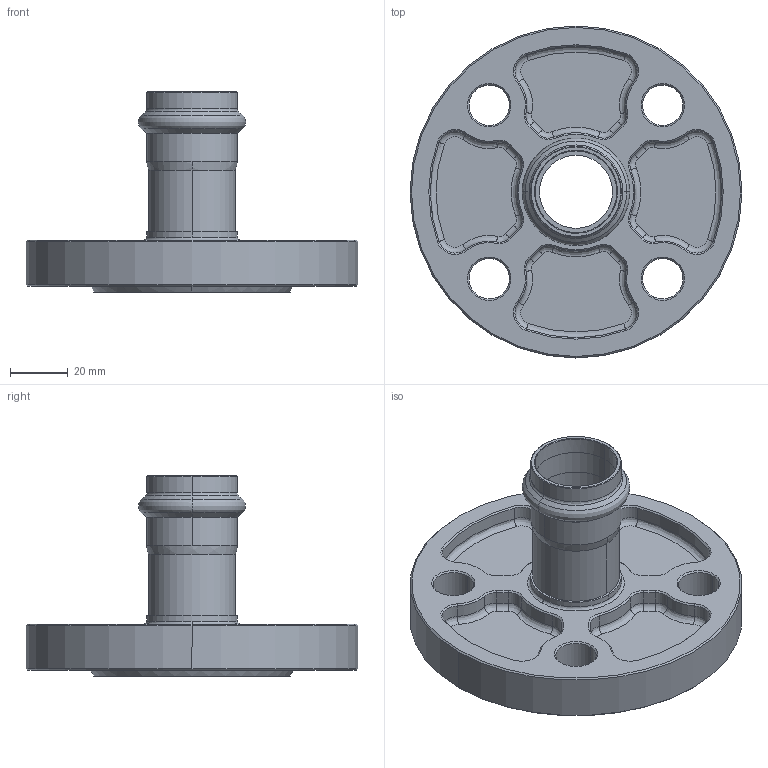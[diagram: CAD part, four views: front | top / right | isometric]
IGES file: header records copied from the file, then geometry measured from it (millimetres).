
Start section: Elysium IGES Interface
Global section: file name: C:\3d modellen sudo\S-Pr VP\SP6500V\6500VW28.igs; native system: CoCreate Modeling 17.00A  17-Jun-2010; preprocessor: CoCreate IGES_3D V2.2; author: Unknown; organization: Unknown; date: 20130129.102036; units: millimetre
Bounding box: 115 x 115 x 69.3 mm (x, y, z)
Volume: 132573.6 mm3; surface area: 41555.3 mm2
Topology: 1 solids, 1 shells, 270 faces, 604 edges, 352 vertices
Faces by surface type: bspline 270
